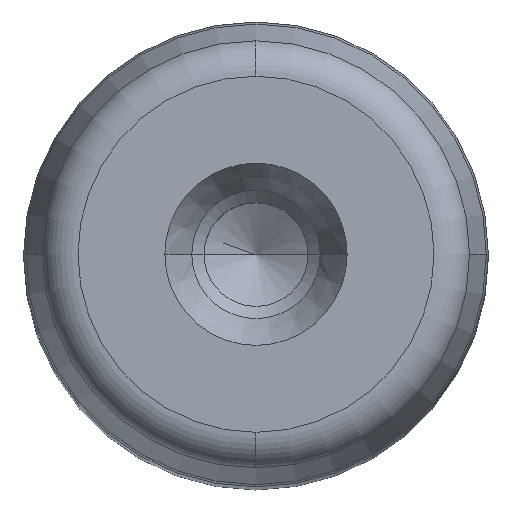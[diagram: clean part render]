
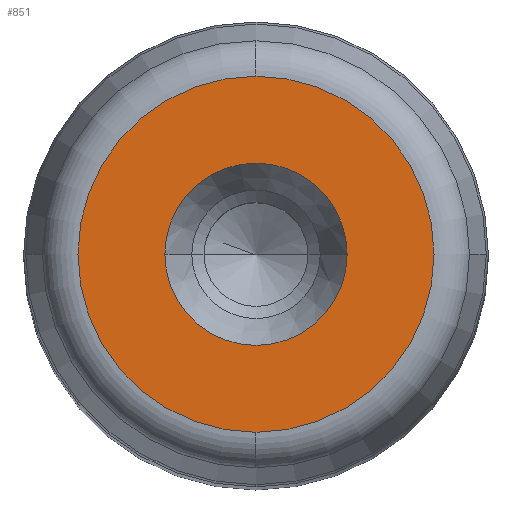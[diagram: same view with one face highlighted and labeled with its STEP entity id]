
A CAD part, top view. The second image highlights one B-rep face of the part: STEP entity #851.
In plain terms, the highlighted planar face has unit normal (0, 0, 1) as drawn and (0, 1, 0) by its records, which use the part's own axes.
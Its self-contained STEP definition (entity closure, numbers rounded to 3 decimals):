
#281=CARTESIAN_POINT('',(7.45,160.0,0.0));
#282=VERTEX_POINT('',#281);
#289=CARTESIAN_POINT('',(-7.45,160.0,0.));
#290=VERTEX_POINT('',#289);
#291=CARTESIAN_POINT('',(0.0,160.0,0.0));
#292=DIRECTION('',(0.0,1.0,0.0));
#293=DIRECTION('',(1.0,0.0,0.0));
#294=AXIS2_PLACEMENT_3D('',#291,#292,#293);
#295=CIRCLE('',#294,7.45);
#296=EDGE_CURVE('',#282,#290,#295,.T.);
#313=CARTESIAN_POINT('',(0.0,160.0,14.554));
#314=VERTEX_POINT('',#313);
#324=CARTESIAN_POINT('',(0.,160.0,-14.554));
#325=VERTEX_POINT('',#324);
#326=CARTESIAN_POINT('',(0.0,160.0,0.0));
#327=DIRECTION('',(0.0,1.0,0.0));
#328=DIRECTION('',(1.0,0.0,0.0));
#329=AXIS2_PLACEMENT_3D('',#326,#327,#328);
#330=CIRCLE('',#329,14.554);
#331=EDGE_CURVE('',#325,#314,#330,.T.);
#812=CARTESIAN_POINT('',(14.554,160.0,0.0));
#813=VERTEX_POINT('',#812);
#814=CARTESIAN_POINT('',(0.0,160.0,0.0));
#815=DIRECTION('',(0.0,1.0,0.0));
#816=DIRECTION('',(1.0,0.0,0.0));
#817=AXIS2_PLACEMENT_3D('',#814,#815,#816);
#818=CIRCLE('',#817,14.554);
#819=EDGE_CURVE('',#813,#325,#818,.T.);
#821=CARTESIAN_POINT('',(0.0,160.0,0.0));
#822=DIRECTION('',(0.0,1.0,0.0));
#823=DIRECTION('',(1.0,0.0,0.0));
#824=AXIS2_PLACEMENT_3D('',#821,#822,#823);
#825=CIRCLE('',#824,14.554);
#826=EDGE_CURVE('',#314,#813,#825,.T.);
#831=CARTESIAN_POINT('',(-16.01,160.0,-16.01));
#832=DIRECTION('',(0.0,1.0,0.0));
#833=DIRECTION('',(0.0,0.0,1.0));
#834=AXIS2_PLACEMENT_3D('',#831,#832,#833);
#835=PLANE('',#834);
#836=ORIENTED_EDGE('',*,*,#819,.T.);
#837=ORIENTED_EDGE('',*,*,#331,.T.);
#838=ORIENTED_EDGE('',*,*,#826,.T.);
#839=EDGE_LOOP('',(#836,#837,#838));
#840=FACE_OUTER_BOUND('',#839,.T.);
#841=ORIENTED_EDGE('',*,*,#296,.F.);
#842=CARTESIAN_POINT('',(0.0,160.0,0.0));
#843=DIRECTION('',(0.0,1.0,0.0));
#844=DIRECTION('',(1.0,0.0,0.0));
#845=AXIS2_PLACEMENT_3D('',#842,#843,#844);
#846=CIRCLE('',#845,7.45);
#847=EDGE_CURVE('',#290,#282,#846,.T.);
#848=ORIENTED_EDGE('',*,*,#847,.F.);
#849=EDGE_LOOP('',(#841,#848));
#850=FACE_BOUND('',#849,.T.);
#851=ADVANCED_FACE('',(#840,#850),#835,.T.);
